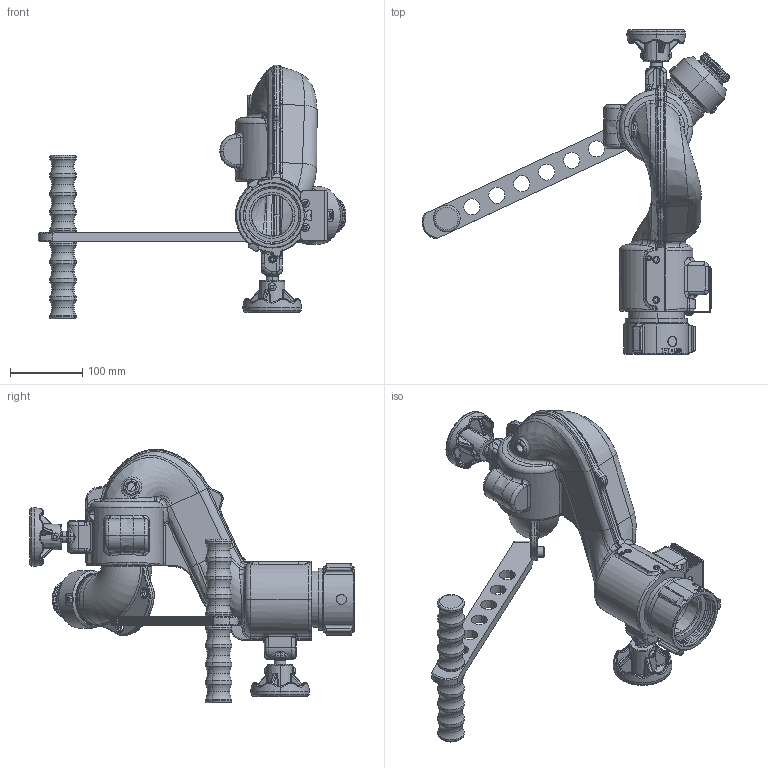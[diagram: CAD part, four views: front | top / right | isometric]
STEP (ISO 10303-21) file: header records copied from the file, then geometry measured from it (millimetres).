
FILE_DESCRIPTION (( 'STEP AP203' ), '1' );
FILE_NAME ('Y2-T14ASLDPRT.STEP', '2018-07-06T19:32:51', ( 'Windows User' ), ( '' ), 'SwSTEP 2.0', 'SolidWorks 2017', '' );
FILE_SCHEMA (( 'CONFIG_CONTROL_DESIGN' ));
Length unit declared in the file: inch
Products named in the file (1): Y2-T14ASLDPRT
Bounding box: 426.08 x 449.27 x 350.78 mm (x, y, z)
Surface area: 405476.8 mm2 (no closed solid volume)
Topology: 0 solids, 43 shells, 1513 faces, 4462 edges, 2892 vertices
Faces by surface type: bspline 455, cylinder 414, plane 269, torus 209, cone 144, sphere 22
Entity records: 109203 total; most frequent: CARTESIAN_POINT 73867, ORIENTED_EDGE 7665, DIRECTION 6425, EDGE_CURVE 4433, VERTEX_POINT 2885, AXIS2_PLACEMENT_3D 2590, EDGE_LOOP 1612, CIRCLE 1531
